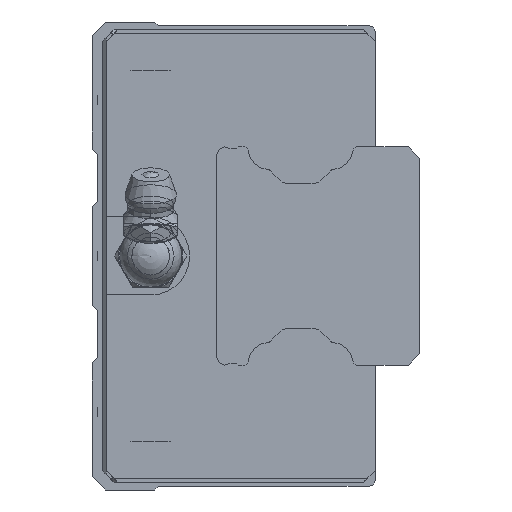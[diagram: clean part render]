
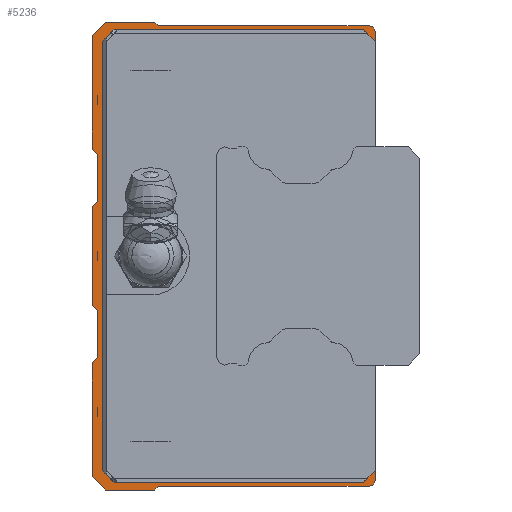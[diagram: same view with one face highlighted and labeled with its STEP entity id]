
A CAD part, left-side view. The second image highlights one B-rep face of the part: STEP entity #5236.
In plain terms, the highlighted planar face has unit normal (-1, 0, 0).
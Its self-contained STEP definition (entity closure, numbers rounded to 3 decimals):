
#111=LINE('',#8164,#473);
#120=LINE('',#8183,#482);
#127=LINE('',#8196,#489);
#153=LINE('',#8252,#515);
#161=LINE('',#8268,#523);
#167=LINE('',#8280,#529);
#192=LINE('',#8331,#554);
#197=LINE('',#8340,#559);
#199=LINE('',#8344,#561);
#224=LINE('',#8430,#586);
#228=LINE('',#8439,#590);
#231=LINE('',#8445,#593);
#235=LINE('',#8457,#597);
#239=LINE('',#8472,#601);
#243=LINE('',#8484,#605);
#246=LINE('',#8490,#608);
#249=LINE('',#8496,#611);
#252=LINE('',#8506,#614);
#255=LINE('',#8512,#617);
#259=LINE('',#8524,#621);
#263=LINE('',#8536,#625);
#266=LINE('',#8546,#628);
#269=LINE('',#8552,#631);
#273=LINE('',#8564,#635);
#277=LINE('',#8576,#639);
#280=LINE('',#8586,#642);
#473=VECTOR('',#6386,1000.);
#482=VECTOR('',#6401,1000.);
#489=VECTOR('',#6412,1000.);
#515=VECTOR('',#6452,1000.);
#523=VECTOR('',#6464,1000.);
#529=VECTOR('',#6476,1000.);
#554=VECTOR('',#6517,1000.);
#559=VECTOR('',#6524,1000.);
#561=VECTOR('',#6528,1000.);
#586=VECTOR('',#6595,1000.);
#590=VECTOR('',#6601,1000.);
#593=VECTOR('',#6606,1000.);
#597=VECTOR('',#6618,1000.);
#601=VECTOR('',#6636,1000.);
#605=VECTOR('',#6648,1000.);
#608=VECTOR('',#6653,1000.);
#611=VECTOR('',#6658,1000.);
#614=VECTOR('',#6667,1000.);
#617=VECTOR('',#6672,1000.);
#621=VECTOR('',#6684,1000.);
#625=VECTOR('',#6696,1000.);
#628=VECTOR('',#6705,1000.);
#631=VECTOR('',#6710,1000.);
#635=VECTOR('',#6722,1000.);
#639=VECTOR('',#6734,1000.);
#642=VECTOR('',#6743,1000.);
#837=PLANE('',#5694);
#1141=CIRCLE('',#5650,0.5);
#1143=CIRCLE('',#5654,0.8);
#1145=CIRCLE('',#5657,0.8);
#1147=CIRCLE('',#5661,0.5);
#1151=CIRCLE('',#5671,0.5);
#1153=CIRCLE('',#5675,0.5);
#1157=CIRCLE('',#5683,0.5);
#1159=CIRCLE('',#5687,0.5);
#1899=ORIENTED_EDGE('',*,*,#2889,.T.);
#1900=ORIENTED_EDGE('',*,*,#2896,.T.);
#1901=ORIENTED_EDGE('',*,*,#2969,.F.);
#1902=ORIENTED_EDGE('',*,*,#3031,.F.);
#1903=ORIENTED_EDGE('',*,*,#3028,.F.);
#1904=ORIENTED_EDGE('',*,*,#3025,.T.);
#1905=ORIENTED_EDGE('',*,*,#3022,.F.);
#1906=ORIENTED_EDGE('',*,*,#3019,.F.);
#1907=ORIENTED_EDGE('',*,*,#3015,.F.);
#1908=ORIENTED_EDGE('',*,*,#3093,.F.);
#1909=ORIENTED_EDGE('',*,*,#3088,.F.);
#1910=ORIENTED_EDGE('',*,*,#3085,.T.);
#1911=ORIENTED_EDGE('',*,*,#3082,.F.);
#1912=ORIENTED_EDGE('',*,*,#3079,.T.);
#1913=ORIENTED_EDGE('',*,*,#3076,.F.);
#1914=ORIENTED_EDGE('',*,*,#3073,.F.);
#1915=ORIENTED_EDGE('',*,*,#3068,.F.);
#1916=ORIENTED_EDGE('',*,*,#3065,.T.);
#1917=ORIENTED_EDGE('',*,*,#3062,.F.);
#1918=ORIENTED_EDGE('',*,*,#3059,.T.);
#1919=ORIENTED_EDGE('',*,*,#3056,.F.);
#1920=ORIENTED_EDGE('',*,*,#3053,.F.);
#1921=ORIENTED_EDGE('',*,*,#3048,.F.);
#1922=ORIENTED_EDGE('',*,*,#3045,.F.);
#1923=ORIENTED_EDGE('',*,*,#3042,.F.);
#1924=ORIENTED_EDGE('',*,*,#3039,.T.);
#1925=ORIENTED_EDGE('',*,*,#3036,.F.);
#1926=ORIENTED_EDGE('',*,*,#3033,.F.);
#1927=ORIENTED_EDGE('',*,*,#2971,.F.);
#1928=ORIENTED_EDGE('',*,*,#2931,.T.);
#1929=ORIENTED_EDGE('',*,*,#2938,.T.);
#1930=ORIENTED_EDGE('',*,*,#2923,.T.);
#1931=ORIENTED_EDGE('',*,*,#2964,.T.);
#1932=ORIENTED_EDGE('',*,*,#2879,.T.);
#2879=EDGE_CURVE('',#3539,#3538,#111,.T.);
#2889=EDGE_CURVE('',#3538,#3545,#120,.T.);
#2896=EDGE_CURVE('',#3545,#3549,#127,.T.);
#2923=EDGE_CURVE('',#3573,#3572,#153,.T.);
#2931=EDGE_CURVE('',#3579,#3578,#161,.T.);
#2938=EDGE_CURVE('',#3578,#3573,#167,.T.);
#2964=EDGE_CURVE('',#3572,#3539,#192,.T.);
#2969=EDGE_CURVE('',#3602,#3549,#197,.T.);
#2971=EDGE_CURVE('',#3579,#3604,#199,.T.);
#3015=EDGE_CURVE('',#3644,#3645,#224,.T.);
#3019=EDGE_CURVE('',#3645,#3648,#228,.T.);
#3022=EDGE_CURVE('',#3648,#3650,#231,.T.);
#3025=EDGE_CURVE('',#3652,#3650,#1141,.T.);
#3028=EDGE_CURVE('',#3652,#3654,#235,.T.);
#3031=EDGE_CURVE('',#3654,#3602,#1143,.T.);
#3033=EDGE_CURVE('',#3604,#3656,#1145,.T.);
#3036=EDGE_CURVE('',#3656,#3658,#239,.T.);
#3039=EDGE_CURVE('',#3660,#3658,#1147,.T.);
#3042=EDGE_CURVE('',#3660,#3662,#243,.T.);
#3045=EDGE_CURVE('',#3662,#3664,#246,.T.);
#3048=EDGE_CURVE('',#3664,#3666,#249,.T.);
#3053=EDGE_CURVE('',#3666,#3670,#252,.T.);
#3056=EDGE_CURVE('',#3670,#3672,#255,.T.);
#3059=EDGE_CURVE('',#3674,#3672,#1151,.T.);
#3062=EDGE_CURVE('',#3674,#3676,#259,.T.);
#3065=EDGE_CURVE('',#3678,#3676,#1153,.T.);
#3068=EDGE_CURVE('',#3678,#3680,#263,.T.);
#3073=EDGE_CURVE('',#3680,#3684,#266,.T.);
#3076=EDGE_CURVE('',#3684,#3686,#269,.T.);
#3079=EDGE_CURVE('',#3688,#3686,#1157,.T.);
#3082=EDGE_CURVE('',#3688,#3690,#273,.T.);
#3085=EDGE_CURVE('',#3692,#3690,#1159,.T.);
#3088=EDGE_CURVE('',#3692,#3694,#277,.T.);
#3093=EDGE_CURVE('',#3694,#3644,#280,.T.);
#3538=VERTEX_POINT('',#8163);
#3539=VERTEX_POINT('',#8165);
#3545=VERTEX_POINT('',#8182);
#3549=VERTEX_POINT('',#8195);
#3572=VERTEX_POINT('',#8251);
#3573=VERTEX_POINT('',#8253);
#3578=VERTEX_POINT('',#8267);
#3579=VERTEX_POINT('',#8269);
#3602=VERTEX_POINT('',#8339);
#3604=VERTEX_POINT('',#8345);
#3644=VERTEX_POINT('',#8431);
#3645=VERTEX_POINT('',#8432);
#3648=VERTEX_POINT('',#8440);
#3650=VERTEX_POINT('',#8446);
#3652=VERTEX_POINT('',#8452);
#3654=VERTEX_POINT('',#8458);
#3656=VERTEX_POINT('',#8467);
#3658=VERTEX_POINT('',#8473);
#3660=VERTEX_POINT('',#8479);
#3662=VERTEX_POINT('',#8485);
#3664=VERTEX_POINT('',#8491);
#3666=VERTEX_POINT('',#8497);
#3670=VERTEX_POINT('',#8507);
#3672=VERTEX_POINT('',#8513);
#3674=VERTEX_POINT('',#8519);
#3676=VERTEX_POINT('',#8525);
#3678=VERTEX_POINT('',#8531);
#3680=VERTEX_POINT('',#8537);
#3684=VERTEX_POINT('',#8547);
#3686=VERTEX_POINT('',#8553);
#3688=VERTEX_POINT('',#8559);
#3690=VERTEX_POINT('',#8565);
#3692=VERTEX_POINT('',#8571);
#3694=VERTEX_POINT('',#8577);
#4094=EDGE_LOOP('',(#1899,#1900,#1901,#1902,#1903,#1904,#1905,#1906,#1907,
#1908,#1909,#1910,#1911,#1912,#1913,#1914,#1915,#1916,#1917,#1918,#1919,
#1920,#1921,#1922,#1923,#1924,#1925,#1926,#1927,#1928,#1929,#1930,#1931,
#1932));
#4659=FACE_BOUND('',#4094,.T.);
#5236=ADVANCED_FACE('',(#4659),#837,.F.);
#5650=AXIS2_PLACEMENT_3D('',#8451,#6611,#6612);
#5654=AXIS2_PLACEMENT_3D('',#8463,#6623,#6624);
#5657=AXIS2_PLACEMENT_3D('',#8466,#6629,#6630);
#5661=AXIS2_PLACEMENT_3D('',#8478,#6641,#6642);
#5671=AXIS2_PLACEMENT_3D('',#8518,#6677,#6678);
#5675=AXIS2_PLACEMENT_3D('',#8530,#6689,#6690);
#5683=AXIS2_PLACEMENT_3D('',#8558,#6715,#6716);
#5687=AXIS2_PLACEMENT_3D('',#8570,#6727,#6728);
#5694=AXIS2_PLACEMENT_3D('',#8589,#6747,#6748);
#6386=DIRECTION('',(0.,-0.707,0.707));
#6401=DIRECTION('',(0.,-1.,0.));
#6412=DIRECTION('',(0.,-0.707,-0.707));
#6452=DIRECTION('',(0.,0.707,0.707));
#6464=DIRECTION('',(0.,0.707,-0.707));
#6476=DIRECTION('',(0.,1.,0.));
#6517=DIRECTION('',(0.,0.,1.));
#6524=DIRECTION('',(0.,0.,-1.));
#6528=DIRECTION('',(0.,0.,-1.));
#6595=DIRECTION('',(0.,-0.707,0.707));
#6601=DIRECTION('',(0.,-1.,0.));
#6606=DIRECTION('',(0.,-0.707,-0.707));
#6611=DIRECTION('',(1.,0.,0.));
#6612=DIRECTION('',(0.,0.,-1.));
#6618=DIRECTION('',(0.,-1.,0.));
#6623=DIRECTION('',(1.,0.,0.));
#6624=DIRECTION('',(0.,0.,-1.));
#6629=DIRECTION('',(1.,0.,0.));
#6630=DIRECTION('',(0.,0.,-1.));
#6636=DIRECTION('',(0.,1.,0.));
#6641=DIRECTION('',(1.,0.,0.));
#6642=DIRECTION('',(0.,0.,-1.));
#6648=DIRECTION('',(0.,0.707,-0.707));
#6653=DIRECTION('',(0.,1.,0.));
#6658=DIRECTION('',(0.,0.707,0.707));
#6667=DIRECTION('',(0.,0.,1.));
#6672=DIRECTION('',(0.,-0.707,0.707));
#6677=DIRECTION('',(1.,0.,0.));
#6678=DIRECTION('',(0.,0.,-1.));
#6684=DIRECTION('',(0.,0.,1.));
#6689=DIRECTION('',(1.,0.,0.));
#6690=DIRECTION('',(0.,0.,-1.));
#6696=DIRECTION('',(0.,0.707,0.707));
#6705=DIRECTION('',(0.,0.,1.));
#6710=DIRECTION('',(0.,-0.707,0.707));
#6715=DIRECTION('',(1.,0.,0.));
#6716=DIRECTION('',(0.,0.,-1.));
#6722=DIRECTION('',(0.,0.,1.));
#6727=DIRECTION('',(1.,0.,0.));
#6728=DIRECTION('',(0.,0.,-1.));
#6734=DIRECTION('',(0.,0.707,0.707));
#6743=DIRECTION('',(0.,0.,1.));
#6747=DIRECTION('',(1.,0.,0.));
#6748=DIRECTION('',(0.,0.,-1.));
#8163=CARTESIAN_POINT('',(-35.25,33.5,29.));
#8164=CARTESIAN_POINT('',(-35.25,35.,27.5));
#8165=CARTESIAN_POINT('',(-35.25,35.,27.5));
#8182=CARTESIAN_POINT('',(-35.25,1.5,29.));
#8183=CARTESIAN_POINT('',(-35.25,33.5,29.));
#8195=CARTESIAN_POINT('',(-35.25,0.,27.5));
#8196=CARTESIAN_POINT('',(-35.25,1.5,29.));
#8251=CARTESIAN_POINT('',(-35.25,35.,-27.5));
#8252=CARTESIAN_POINT('',(-35.25,33.5,-29.));
#8253=CARTESIAN_POINT('',(-35.25,33.5,-29.));
#8267=CARTESIAN_POINT('',(-35.25,1.5,-29.));
#8268=CARTESIAN_POINT('',(-35.25,0.,-27.5));
#8269=CARTESIAN_POINT('',(-35.25,0.,-27.5));
#8280=CARTESIAN_POINT('',(-35.25,1.5,-29.));
#8331=CARTESIAN_POINT('',(-35.25,35.,-27.5));
#8339=CARTESIAN_POINT('',(-35.25,0.,28.7));
#8340=CARTESIAN_POINT('',(-35.25,0.,28.7));
#8344=CARTESIAN_POINT('',(-35.25,0.,28.7));
#8345=CARTESIAN_POINT('',(-35.25,0.,-28.7));
#8430=CARTESIAN_POINT('',(-35.25,36.3,28.3));
#8431=CARTESIAN_POINT('',(-35.25,36.3,28.3));
#8432=CARTESIAN_POINT('',(-35.25,34.6,30.));
#8439=CARTESIAN_POINT('',(-35.25,34.6,30.));
#8440=CARTESIAN_POINT('',(-35.25,28.3,30.));
#8445=CARTESIAN_POINT('',(-35.25,28.3,30.));
#8446=CARTESIAN_POINT('',(-35.25,27.946,29.646));
#8451=CARTESIAN_POINT('',(-35.25,27.593,30.));
#8452=CARTESIAN_POINT('',(-35.25,27.593,29.5));
#8457=CARTESIAN_POINT('',(-35.25,27.593,29.5));
#8458=CARTESIAN_POINT('',(-35.25,0.8,29.5));
#8463=CARTESIAN_POINT('',(-35.25,0.8,28.7));
#8466=CARTESIAN_POINT('',(-35.25,0.8,-28.7));
#8467=CARTESIAN_POINT('',(-35.25,0.8,-29.5));
#8472=CARTESIAN_POINT('',(-35.25,0.8,-29.5));
#8473=CARTESIAN_POINT('',(-35.25,27.593,-29.5));
#8478=CARTESIAN_POINT('',(-35.25,27.593,-30.));
#8479=CARTESIAN_POINT('',(-35.25,27.946,-29.646));
#8484=CARTESIAN_POINT('',(-35.25,27.946,-29.646));
#8485=CARTESIAN_POINT('',(-35.25,28.3,-30.));
#8490=CARTESIAN_POINT('',(-35.25,28.3,-30.));
#8491=CARTESIAN_POINT('',(-35.25,34.6,-30.));
#8496=CARTESIAN_POINT('',(-35.25,34.6,-30.));
#8497=CARTESIAN_POINT('',(-35.25,36.3,-28.3));
#8506=CARTESIAN_POINT('',(-35.25,36.3,-28.3));
#8507=CARTESIAN_POINT('',(-35.25,36.3,-13.7));
#8512=CARTESIAN_POINT('',(-35.25,36.3,-13.7));
#8513=CARTESIAN_POINT('',(-35.25,35.746,-13.146));
#8518=CARTESIAN_POINT('',(-35.25,36.1,-12.793));
#8519=CARTESIAN_POINT('',(-35.25,35.6,-12.793));
#8524=CARTESIAN_POINT('',(-35.25,35.6,-12.793));
#8525=CARTESIAN_POINT('',(-35.25,35.6,-7.207));
#8530=CARTESIAN_POINT('',(-35.25,36.1,-7.207));
#8531=CARTESIAN_POINT('',(-35.25,35.746,-6.854));
#8536=CARTESIAN_POINT('',(-35.25,35.746,-6.854));
#8537=CARTESIAN_POINT('',(-35.25,36.3,-6.3));
#8546=CARTESIAN_POINT('',(-35.25,36.3,-6.3));
#8547=CARTESIAN_POINT('',(-35.25,36.3,6.3));
#8552=CARTESIAN_POINT('',(-35.25,36.3,6.3));
#8553=CARTESIAN_POINT('',(-35.25,35.746,6.854));
#8558=CARTESIAN_POINT('',(-35.25,36.1,7.207));
#8559=CARTESIAN_POINT('',(-35.25,35.6,7.207));
#8564=CARTESIAN_POINT('',(-35.25,35.6,7.207));
#8565=CARTESIAN_POINT('',(-35.25,35.6,12.793));
#8570=CARTESIAN_POINT('',(-35.25,36.1,12.793));
#8571=CARTESIAN_POINT('',(-35.25,35.746,13.146));
#8576=CARTESIAN_POINT('',(-35.25,35.746,13.146));
#8577=CARTESIAN_POINT('',(-35.25,36.3,13.7));
#8586=CARTESIAN_POINT('',(-35.25,36.3,13.7));
#8589=CARTESIAN_POINT('',(-35.25,27.593,30.));
